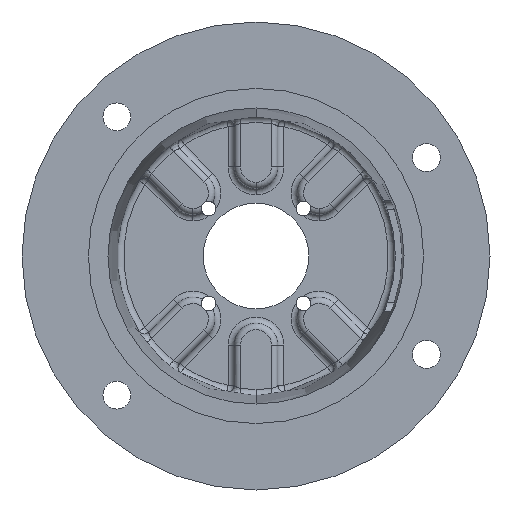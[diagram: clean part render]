
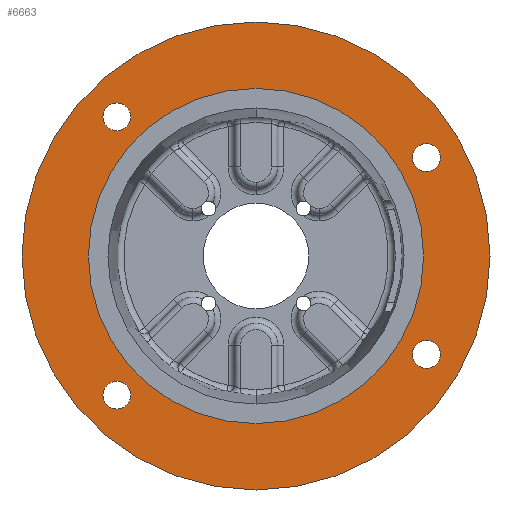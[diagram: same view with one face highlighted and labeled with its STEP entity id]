
A CAD part, front view. The second image highlights one B-rep face of the part: STEP entity #6663.
In plain terms, the highlighted planar face has unit normal (0, -1, 0).
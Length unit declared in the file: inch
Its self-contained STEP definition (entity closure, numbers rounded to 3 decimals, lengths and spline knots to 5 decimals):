
#9 = EDGE_CURVE ( 'NONE', #928, #12895, #5536, .T. ) ;
#107 = CARTESIAN_POINT ( 'NONE',  ( 0., 0., 3.9385 ) ) ;
#279 = CIRCLE ( 'NONE', #8438, 0.32812 ) ;
#372 = FACE_OUTER_BOUND ( 'NONE', #6032, .T. ) ;
#636 = CARTESIAN_POINT ( 'NONE',  ( 0., 0., -3.9385 ) ) ;
#642 = VERTEX_POINT ( 'NONE', #636 ) ;
#731 = FACE_BOUND ( 'NONE', #3134, .T. ) ;
#928 = VERTEX_POINT ( 'NONE', #11968 ) ;
#1144 = VERTEX_POINT ( 'NONE', #6404 ) ;
#1228 = ORIENTED_EDGE ( 'NONE', *, *, #6094, .F. ) ;
#1317 = EDGE_CURVE ( 'NONE', #11925, #1144, #5360, .T. ) ;
#1371 = CARTESIAN_POINT ( 'NONE',  ( -3.27037, 0., 3.27037 ) ) ;
#1373 = CARTESIAN_POINT ( 'NONE',  ( 4.00537, 0., 1.98437 ) ) ;
#1645 = CARTESIAN_POINT ( 'NONE',  ( 0., 0., -5.5 ) ) ;
#2003 = CARTESIAN_POINT ( 'NONE',  ( 4.00537, 0., 2.64062 ) ) ;
#2158 = EDGE_CURVE ( 'NONE', #4903, #10493, #13178, .T. ) ;
#2236 = DIRECTION ( 'NONE',  ( 0., -1., 0. ) ) ;
#2301 = CIRCLE ( 'NONE', #9079, 0.32812 ) ;
#2342 = CIRCLE ( 'NONE', #9557, 3.9385 ) ;
#2510 = DIRECTION ( 'NONE',  ( 0., 0., -1. ) ) ;
#2522 = CARTESIAN_POINT ( 'NONE',  ( -3.27037, 0., -3.59849 ) ) ;
#3007 = VERTEX_POINT ( 'NONE', #2003 ) ;
#3134 = EDGE_LOOP ( 'NONE', ( #3199, #5601 ) ) ;
#3199 = ORIENTED_EDGE ( 'NONE', *, *, #5990, .F. ) ;
#3218 = DIRECTION ( 'NONE',  ( 0., -1., 0. ) ) ;
#3357 = FACE_BOUND ( 'NONE', #3788, .T. ) ;
#3597 = ORIENTED_EDGE ( 'NONE', *, *, #6781, .F. ) ;
#3788 = EDGE_LOOP ( 'NONE', ( #1228, #9485 ) ) ;
#4033 = DIRECTION ( 'NONE',  ( 0., -1., 0. ) ) ;
#4177 = CARTESIAN_POINT ( 'NONE',  ( 4.00537, 0., -2.3125 ) ) ;
#4405 = AXIS2_PLACEMENT_3D ( 'NONE', #8690, #2236, #9764 ) ;
#4460 = ORIENTED_EDGE ( 'NONE', *, *, #1317, .F. ) ;
#4468 = EDGE_LOOP ( 'NONE', ( #7277, #3597 ) ) ;
#4570 = CIRCLE ( 'NONE', #10982, 0.32812 ) ;
#4779 = DIRECTION ( 'NONE',  ( 0., -1., 0. ) ) ;
#4886 = DIRECTION ( 'NONE',  ( 0., -1., 0. ) ) ;
#4900 = CIRCLE ( 'NONE', #4405, 3.9385 ) ;
#4903 = VERTEX_POINT ( 'NONE', #9190 ) ;
#5227 = AXIS2_PLACEMENT_3D ( 'NONE', #10441, #10403, #10354 ) ;
#5278 = DIRECTION ( 'NONE',  ( 0., 0., -1. ) ) ;
#5360 = CIRCLE ( 'NONE', #5227, 0.32812 ) ;
#5381 = EDGE_CURVE ( 'NONE', #6962, #3007, #11575, .T. ) ;
#5518 = AXIS2_PLACEMENT_3D ( 'NONE', #13550, #7121, #8250 ) ;
#5536 = CIRCLE ( 'NONE', #5834, 0.32812 ) ;
#5601 = ORIENTED_EDGE ( 'NONE', *, *, #9, .F. ) ;
#5742 = CIRCLE ( 'NONE', #7850, 5.5 ) ;
#5834 = AXIS2_PLACEMENT_3D ( 'NONE', #8801, #8020, #9420 ) ;
#5990 = EDGE_CURVE ( 'NONE', #12895, #928, #11246, .T. ) ;
#6032 = EDGE_LOOP ( 'NONE', ( #13979, #10189 ) ) ;
#6094 = EDGE_CURVE ( 'NONE', #642, #6136, #4900, .T. ) ;
#6109 = PLANE ( 'NONE',  #5518 ) ;
#6136 = VERTEX_POINT ( 'NONE', #107 ) ;
#6215 = FACE_BOUND ( 'NONE', #13422, .T. ) ;
#6353 = CARTESIAN_POINT ( 'NONE',  ( -3.27037, 0., -3.27037 ) ) ;
#6404 = CARTESIAN_POINT ( 'NONE',  ( -3.27037, 0., 2.94224 ) ) ;
#6477 = DIRECTION ( 'NONE',  ( 0., -1., 0. ) ) ;
#6618 = AXIS2_PLACEMENT_3D ( 'NONE', #10432, #4033, #11520 ) ;
#6663 = ADVANCED_FACE ( 'NONE', ( #9038, #11892, #731, #6215, #3357, #372 ), #6109, .F. ) ;
#6781 = EDGE_CURVE ( 'NONE', #10493, #4903, #2301, .T. ) ;
#6926 = ORIENTED_EDGE ( 'NONE', *, *, #5381, .F. ) ;
#6962 = VERTEX_POINT ( 'NONE', #1373 ) ;
#7121 = DIRECTION ( 'NONE',  ( 0., 1., 0. ) ) ;
#7277 = ORIENTED_EDGE ( 'NONE', *, *, #2158, .F. ) ;
#7325 = CARTESIAN_POINT ( 'NONE',  ( 0., 0., 5.5 ) ) ;
#7430 = DIRECTION ( 'NONE',  ( 0., 0., -1. ) ) ;
#7850 = AXIS2_PLACEMENT_3D ( 'NONE', #11169, #4779, #12235 ) ;
#7959 = VERTEX_POINT ( 'NONE', #1645 ) ;
#8020 = DIRECTION ( 'NONE',  ( 0., -1., 0. ) ) ;
#8250 = DIRECTION ( 'NONE',  ( 0., 0., 1. ) ) ;
#8438 = AXIS2_PLACEMENT_3D ( 'NONE', #1371, #8929, #2510 ) ;
#8447 = CIRCLE ( 'NONE', #13617, 5.5 ) ;
#8690 = CARTESIAN_POINT ( 'NONE',  ( 0., 0., 0. ) ) ;
#8703 = AXIS2_PLACEMENT_3D ( 'NONE', #9889, #9989, #9936 ) ;
#8801 = CARTESIAN_POINT ( 'NONE',  ( -3.27037, 0., -3.27037 ) ) ;
#8929 = DIRECTION ( 'NONE',  ( 0., -1., 0. ) ) ;
#8969 = AXIS2_PLACEMENT_3D ( 'NONE', #6353, #13811, #7430 ) ;
#8970 = EDGE_LOOP ( 'NONE', ( #6926, #13872 ) ) ;
#9038 = FACE_BOUND ( 'NONE', #8970, .T. ) ;
#9079 = AXIS2_PLACEMENT_3D ( 'NONE', #4177, #11656, #5278 ) ;
#9100 = EDGE_CURVE ( 'NONE', #6136, #642, #2342, .T. ) ;
#9125 = EDGE_CURVE ( 'NONE', #3007, #6962, #4570, .T. ) ;
#9190 = CARTESIAN_POINT ( 'NONE',  ( 4.00537, 0., -2.64063 ) ) ;
#9316 = EDGE_CURVE ( 'NONE', #7959, #13940, #5742, .T. ) ;
#9420 = DIRECTION ( 'NONE',  ( 0., 0., -1. ) ) ;
#9485 = ORIENTED_EDGE ( 'NONE', *, *, #9100, .F. ) ;
#9557 = AXIS2_PLACEMENT_3D ( 'NONE', #9625, #3218, #10708 ) ;
#9625 = CARTESIAN_POINT ( 'NONE',  ( 0., 0., 0. ) ) ;
#9764 = DIRECTION ( 'NONE',  ( 0., 0., -1. ) ) ;
#9889 = CARTESIAN_POINT ( 'NONE',  ( 4.00537, 0., -2.3125 ) ) ;
#9936 = DIRECTION ( 'NONE',  ( 0., 0., -1. ) ) ;
#9989 = DIRECTION ( 'NONE',  ( 0., -1., 0. ) ) ;
#10189 = ORIENTED_EDGE ( 'NONE', *, *, #13773, .T. ) ;
#10232 = CARTESIAN_POINT ( 'NONE',  ( -3.27037, 0., 3.59849 ) ) ;
#10354 = DIRECTION ( 'NONE',  ( 0., 0., -1. ) ) ;
#10403 = DIRECTION ( 'NONE',  ( 0., -1., 0. ) ) ;
#10432 = CARTESIAN_POINT ( 'NONE',  ( 4.00537, 0., 2.3125 ) ) ;
#10441 = CARTESIAN_POINT ( 'NONE',  ( -3.27037, 0., 3.27037 ) ) ;
#10493 = VERTEX_POINT ( 'NONE', #12521 ) ;
#10708 = DIRECTION ( 'NONE',  ( 0., 0., -1. ) ) ;
#10982 = AXIS2_PLACEMENT_3D ( 'NONE', #12873, #6477, #13935 ) ;
#11115 = ORIENTED_EDGE ( 'NONE', *, *, #13310, .F. ) ;
#11169 = CARTESIAN_POINT ( 'NONE',  ( 0., 0., 0. ) ) ;
#11246 = CIRCLE ( 'NONE', #8969, 0.32812 ) ;
#11272 = CARTESIAN_POINT ( 'NONE',  ( 0., 0., 0. ) ) ;
#11520 = DIRECTION ( 'NONE',  ( 0., 0., -1. ) ) ;
#11575 = CIRCLE ( 'NONE', #6618, 0.32812 ) ;
#11656 = DIRECTION ( 'NONE',  ( 0., -1., 0. ) ) ;
#11892 = FACE_BOUND ( 'NONE', #4468, .T. ) ;
#11925 = VERTEX_POINT ( 'NONE', #10232 ) ;
#11968 = CARTESIAN_POINT ( 'NONE',  ( -3.27037, 0., -2.94224 ) ) ;
#12235 = DIRECTION ( 'NONE',  ( 0., 0., -1. ) ) ;
#12328 = DIRECTION ( 'NONE',  ( 0., 0., -1. ) ) ;
#12521 = CARTESIAN_POINT ( 'NONE',  ( 4.00537, 0., -1.98438 ) ) ;
#12873 = CARTESIAN_POINT ( 'NONE',  ( 4.00537, 0., 2.3125 ) ) ;
#12895 = VERTEX_POINT ( 'NONE', #2522 ) ;
#13178 = CIRCLE ( 'NONE', #8703, 0.32812 ) ;
#13310 = EDGE_CURVE ( 'NONE', #1144, #11925, #279, .T. ) ;
#13422 = EDGE_LOOP ( 'NONE', ( #11115, #4460 ) ) ;
#13550 = CARTESIAN_POINT ( 'NONE',  ( -5.5, 0., 0. ) ) ;
#13617 = AXIS2_PLACEMENT_3D ( 'NONE', #11272, #4886, #12328 ) ;
#13773 = EDGE_CURVE ( 'NONE', #13940, #7959, #8447, .T. ) ;
#13811 = DIRECTION ( 'NONE',  ( 0., -1., 0. ) ) ;
#13872 = ORIENTED_EDGE ( 'NONE', *, *, #9125, .F. ) ;
#13935 = DIRECTION ( 'NONE',  ( 0., 0., -1. ) ) ;
#13940 = VERTEX_POINT ( 'NONE', #7325 ) ;
#13979 = ORIENTED_EDGE ( 'NONE', *, *, #9316, .T. ) ;
